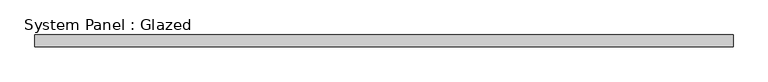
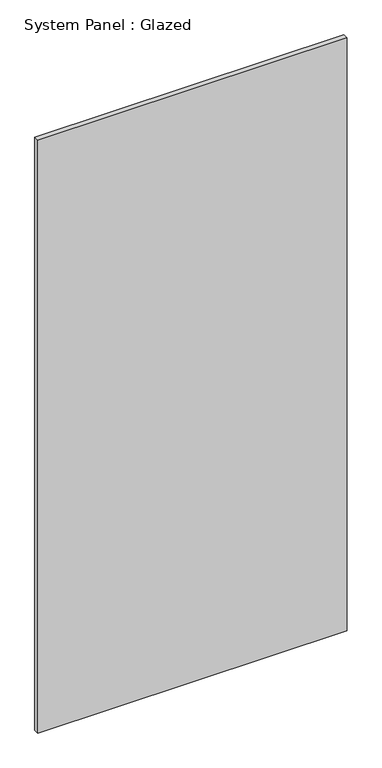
"""IFC4 building model written with IfcOpenShell, lengths in millimetres: plate geometry, System Panel : Glazed."""

from ifc_helpers import new_model, si_unit, origin, origin_with_axes, place, context, project, spatial, polyline, outline, extrude, source, transform, mapped, element, save


def system_panel_glazed_2762a518(model_context):
    return source(origin(), model_context, "Body", "SweptSolid", [
        extrude(outline(polyline([(749.3, -44.45), (-749.3, -44.45), (-749.3, -19.05), (749.3, -19.05), (749.3, -44.45)])), origin_with_axes(), (0.0, 0.0, 1.0), 3035.3),
    ])


if __name__ == "__main__":
    model = new_model("IFC4")
    model_context = context("Model", 3, world=origin())
    ifc_project = project(units=[si_unit("LENGTHUNIT", "METRE", prefix="MILLI")], contexts=[model_context])
    site = spatial("IfcSite", under=ifc_project)
    building = spatial("IfcBuilding", under=site)
    placement = place(None, origin())
    system_panel_glazed_shape = system_panel_glazed_2762a518(model_context)
    element("IfcPlate", 1, ObjectType="System Panel : Glazed", at=placement, inside=building, context=model_context, shape_type="MappedRepresentation", body=[
        mapped(system_panel_glazed_shape, transform((0.0, 0.0, 0.0), x_axis=(1.0, 0.0, 0.0), y_axis=(0.0, 1.0, 0.0), z_axis=(0.0, 0.0, 1.0))),
    ])
    save(model, "model.ifc")
